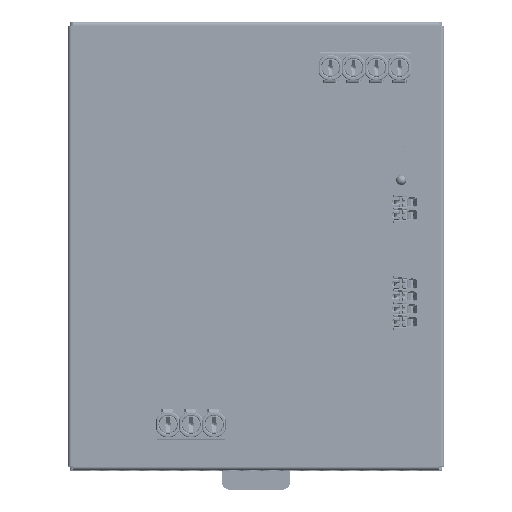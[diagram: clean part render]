
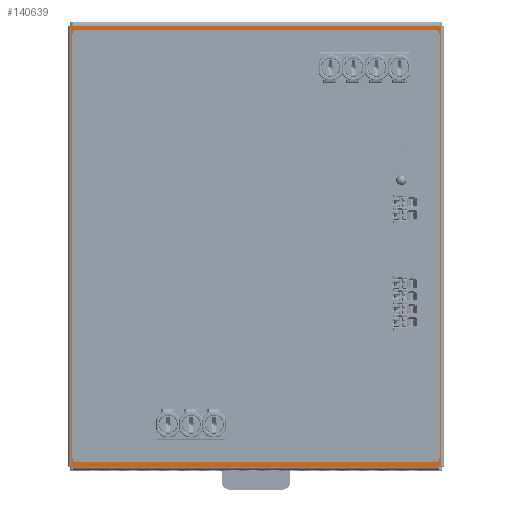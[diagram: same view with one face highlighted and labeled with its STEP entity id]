
A CAD part, top view. The second image highlights one B-rep face of the part: STEP entity #140639.
In plain terms, the highlighted planar face has unit normal (0, 0, 1).
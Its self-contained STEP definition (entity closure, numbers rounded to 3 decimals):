
#4320=DIRECTION('',(0.,-1.,0.));
#4321=VECTOR('',#4320,121.2);
#4322=CARTESIAN_POINT('',(-50.9,122.4,137.));
#4323=LINE('',#4322,#4321);
#4345=DIRECTION('',(-1.,0.,0.));
#4346=VECTOR('',#4345,0.5);
#4347=CARTESIAN_POINT('',(50.9,1.2,137.));
#4348=LINE('',#4347,#4346);
#4349=DIRECTION('',(0.,-1.,0.));
#4350=VECTOR('',#4349,0.2);
#4351=CARTESIAN_POINT('',(50.4,1.2,137.));
#4352=LINE('',#4351,#4350);
#4353=DIRECTION('',(-1.,0.,0.));
#4354=VECTOR('',#4353,0.5);
#4355=CARTESIAN_POINT('',(-50.4,1.2,137.));
#4356=LINE('',#4355,#4354);
#4357=DIRECTION('',(1.,0.,0.));
#4358=VECTOR('',#4357,0.5);
#4359=CARTESIAN_POINT('',(-50.9,122.4,137.));
#4360=LINE('',#4359,#4358);
#4361=DIRECTION('',(0.,1.,0.));
#4362=VECTOR('',#4361,0.2);
#4363=CARTESIAN_POINT('',(-50.4,122.4,137.));
#4364=LINE('',#4363,#4362);
#4365=DIRECTION('',(1.,0.,0.));
#4366=VECTOR('',#4365,0.5);
#4367=CARTESIAN_POINT('',(50.4,122.4,137.));
#4368=LINE('',#4367,#4366);
#4369=CARTESIAN_POINT('',(-49.6,3.3,137.));
#4370=DIRECTION('',(0.,0.,1.));
#4371=DIRECTION('',(-1.,0.,0.));
#4372=AXIS2_PLACEMENT_3D('',#4369,#4370,#4371);
#4374=CARTESIAN_POINT('',(49.6,3.3,137.));
#4375=DIRECTION('',(0.,0.,1.));
#4376=DIRECTION('',(0.,-1.,0.));
#4377=AXIS2_PLACEMENT_3D('',#4374,#4375,#4376);
#4379=CARTESIAN_POINT('',(49.6,120.3,137.));
#4380=DIRECTION('',(0.,0.,1.));
#4381=DIRECTION('',(1.,0.,0.));
#4382=AXIS2_PLACEMENT_3D('',#4379,#4380,#4381);
#4384=CARTESIAN_POINT('',(-49.6,120.3,137.));
#4385=DIRECTION('',(0.,0.,1.));
#4386=DIRECTION('',(0.,1.,0.));
#4387=AXIS2_PLACEMENT_3D('',#4384,#4385,#4386);
#4406=DIRECTION('',(0.,1.,0.));
#4407=VECTOR('',#4406,121.2);
#4408=CARTESIAN_POINT('',(50.9,1.2,137.));
#4409=LINE('',#4408,#4407);
#5340=DIRECTION('',(0.,1.,0.));
#5341=VECTOR('',#5340,0.2);
#5342=CARTESIAN_POINT('',(50.4,122.4,137.));
#5343=LINE('',#5342,#5341);
#5361=DIRECTION('',(-1.,0.,0.));
#5362=VECTOR('',#5361,100.8);
#5363=CARTESIAN_POINT('',(50.4,122.6,137.));
#5364=LINE('',#5363,#5362);
#13801=DIRECTION('',(0.,-1.,0.));
#13802=VECTOR('',#13801,0.2);
#13803=CARTESIAN_POINT('',(-50.4,1.2,137.));
#13804=LINE('',#13803,#13802);
#13817=DIRECTION('',(1.,0.,0.));
#13818=VECTOR('',#13817,100.8);
#13819=CARTESIAN_POINT('',(-50.4,1.,137.));
#13820=LINE('',#13819,#13818);
#17139=DIRECTION('',(0.,1.,0.));
#17140=VECTOR('',#17139,117.);
#17141=CARTESIAN_POINT('',(-50.6,3.3,137.));
#17142=LINE('',#17141,#17140);
#17151=DIRECTION('',(1.,0.,0.));
#17152=VECTOR('',#17151,99.2);
#17153=CARTESIAN_POINT('',(-49.6,121.3,137.));
#17154=LINE('',#17153,#17152);
#17163=DIRECTION('',(0.,-1.,0.));
#17164=VECTOR('',#17163,117.);
#17165=CARTESIAN_POINT('',(50.6,120.3,137.));
#17166=LINE('',#17165,#17164);
#17175=DIRECTION('',(-1.,0.,0.));
#17176=VECTOR('',#17175,99.2);
#17177=CARTESIAN_POINT('',(49.6,2.3,137.));
#17178=LINE('',#17177,#17176);
#107724=CARTESIAN_POINT('',(-50.9,1.2,137.));
#107725=VERTEX_POINT('',#107724);
#107726=CARTESIAN_POINT('',(-50.9,122.4,137.));
#107727=VERTEX_POINT('',#107726);
#107728=CARTESIAN_POINT('',(-50.4,122.4,137.));
#107729=VERTEX_POINT('',#107728);
#107730=CARTESIAN_POINT('',(-50.4,122.6,137.));
#107731=VERTEX_POINT('',#107730);
#107732=CARTESIAN_POINT('',(50.9,1.2,137.));
#107733=CARTESIAN_POINT('',(50.4,1.2,137.));
#107734=VERTEX_POINT('',#107732);
#107735=VERTEX_POINT('',#107733);
#107736=CARTESIAN_POINT('',(50.4,1.,137.));
#107737=VERTEX_POINT('',#107736);
#107738=CARTESIAN_POINT('',(-50.4,1.,137.));
#107739=VERTEX_POINT('',#107738);
#107740=CARTESIAN_POINT('',(-50.4,1.2,137.));
#107741=VERTEX_POINT('',#107740);
#107742=CARTESIAN_POINT('',(50.4,122.6,137.));
#107743=VERTEX_POINT('',#107742);
#107744=CARTESIAN_POINT('',(50.4,122.4,137.));
#107745=VERTEX_POINT('',#107744);
#107746=CARTESIAN_POINT('',(50.9,122.4,137.));
#107747=VERTEX_POINT('',#107746);
#107748=CARTESIAN_POINT('',(-50.6,3.3,137.));
#107749=CARTESIAN_POINT('',(-49.6,2.3,137.));
#107750=VERTEX_POINT('',#107748);
#107751=VERTEX_POINT('',#107749);
#107752=CARTESIAN_POINT('',(49.6,2.3,137.));
#107753=VERTEX_POINT('',#107752);
#107754=CARTESIAN_POINT('',(50.6,3.3,137.));
#107755=VERTEX_POINT('',#107754);
#107756=CARTESIAN_POINT('',(50.6,120.3,137.));
#107757=VERTEX_POINT('',#107756);
#107758=CARTESIAN_POINT('',(49.6,121.3,137.));
#107759=VERTEX_POINT('',#107758);
#107760=CARTESIAN_POINT('',(-49.6,121.3,137.));
#107761=VERTEX_POINT('',#107760);
#107762=CARTESIAN_POINT('',(-50.6,120.3,137.));
#107763=VERTEX_POINT('',#107762);
#140593=CARTESIAN_POINT('',(0.,0.,137.));
#140594=DIRECTION('',(0.,0.,1.));
#140595=DIRECTION('',(1.,0.,0.));
#140596=AXIS2_PLACEMENT_3D('',#140593,#140594,#140595);
#140597=PLANE('',#140596);
#140599=ORIENTED_EDGE('',*,*,#140598,.T.);
#140601=ORIENTED_EDGE('',*,*,#140600,.T.);
#140603=ORIENTED_EDGE('',*,*,#140602,.F.);
#140605=ORIENTED_EDGE('',*,*,#140604,.F.);
#140607=ORIENTED_EDGE('',*,*,#140606,.T.);
#140608=ORIENTED_EDGE('',*,*,#140547,.F.);
#140609=ORIENTED_EDGE('',*,*,#140574,.T.);
#140610=ORIENTED_EDGE('',*,*,#140584,.T.);
#140612=ORIENTED_EDGE('',*,*,#140611,.F.);
#140614=ORIENTED_EDGE('',*,*,#140613,.F.);
#140616=ORIENTED_EDGE('',*,*,#140615,.T.);
#140618=ORIENTED_EDGE('',*,*,#140617,.F.);
#140619=EDGE_LOOP('',(#140599,#140601,#140603,#140605,#140607,#140608,#140609,
#140610,#140612,#140614,#140616,#140618));
#140620=FACE_OUTER_BOUND('',#140619,.F.);
#140622=ORIENTED_EDGE('',*,*,#140621,.T.);
#140624=ORIENTED_EDGE('',*,*,#140623,.F.);
#140626=ORIENTED_EDGE('',*,*,#140625,.T.);
#140628=ORIENTED_EDGE('',*,*,#140627,.F.);
#140630=ORIENTED_EDGE('',*,*,#140629,.T.);
#140632=ORIENTED_EDGE('',*,*,#140631,.F.);
#140634=ORIENTED_EDGE('',*,*,#140633,.T.);
#140636=ORIENTED_EDGE('',*,*,#140635,.F.);
#140637=EDGE_LOOP('',(#140622,#140624,#140626,#140628,#140630,#140632,#140634,
#140636));
#140638=FACE_BOUND('',#140637,.F.);
#140639=ADVANCED_FACE('',(#140620,#140638),#140597,.T.);
#4373=CIRCLE('',#4372,1.);
#4378=CIRCLE('',#4377,1.);
#4383=CIRCLE('',#4382,1.);
#4388=CIRCLE('',#4387,1.);
#140547=EDGE_CURVE('',#107727,#107725,#4323,.T.);
#140574=EDGE_CURVE('',#107727,#107729,#4360,.T.);
#140584=EDGE_CURVE('',#107729,#107731,#4364,.T.);
#140598=EDGE_CURVE('',#107734,#107735,#4348,.T.);
#140600=EDGE_CURVE('',#107735,#107737,#4352,.T.);
#140602=EDGE_CURVE('',#107739,#107737,#13820,.T.);
#140604=EDGE_CURVE('',#107741,#107739,#13804,.T.);
#140606=EDGE_CURVE('',#107741,#107725,#4356,.T.);
#140611=EDGE_CURVE('',#107743,#107731,#5364,.T.);
#140613=EDGE_CURVE('',#107745,#107743,#5343,.T.);
#140615=EDGE_CURVE('',#107745,#107747,#4368,.T.);
#140617=EDGE_CURVE('',#107734,#107747,#4409,.T.);
#140621=EDGE_CURVE('',#107750,#107751,#4373,.T.);
#140623=EDGE_CURVE('',#107753,#107751,#17178,.T.);
#140625=EDGE_CURVE('',#107753,#107755,#4378,.T.);
#140627=EDGE_CURVE('',#107757,#107755,#17166,.T.);
#140629=EDGE_CURVE('',#107757,#107759,#4383,.T.);
#140631=EDGE_CURVE('',#107761,#107759,#17154,.T.);
#140633=EDGE_CURVE('',#107761,#107763,#4388,.T.);
#140635=EDGE_CURVE('',#107750,#107763,#17142,.T.);
